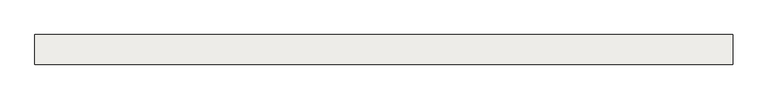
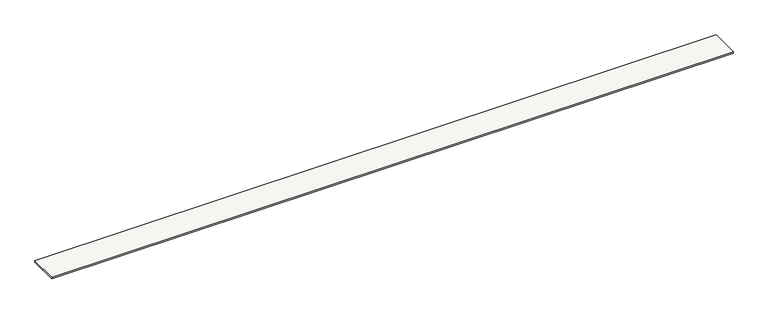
"""IFC4 building model written with IfcOpenShell, lengths in millimetres: slab geometry, Sol-02 - Tablette bois 2cm."""

from ifc_helpers import new_model, si_unit, origin, origin_with_axes, place, context, project, spatial, polyline, outline, extrude, source, transform, mapped, element, save


def slab_0102ef20(model_context):
    return source(origin(), model_context, "Body", "SweptSolid", [
        extrude(outline(polyline([(63788.9999483, 349.9999995), (72028.9999483, 349.9999995), (72028.9999483, -5e-07), (63788.9999483, -5e-07), (63788.9999483, 349.9999995)])), origin_with_axes(), (0.0, 0.0, 1.0), 20.0),
    ])


if __name__ == "__main__":
    model = new_model("IFC4")
    model_context = context("Model", 3, world=origin())
    ifc_project = project(units=[si_unit("LENGTHUNIT", "METRE", prefix="MILLI")], contexts=[model_context])
    site = spatial("IfcSite", under=ifc_project)
    building = spatial("IfcBuilding", under=site)
    placement = place(None, origin())
    slab_shape = slab_0102ef20(model_context)
    element("IfcSlab", 1, ObjectType="Sol-02 - Tablette bois 2cm", at=placement, inside=building, context=model_context, shape_type="MappedRepresentation", body=[
        mapped(slab_shape, transform((0.0, 0.0, 0.0), x_axis=(1.0, 0.0, 0.0), y_axis=(0.0, 1.0, 0.0), z_axis=(0.0, 0.0, 1.0))),
    ])
    save(model, "model.ifc")
